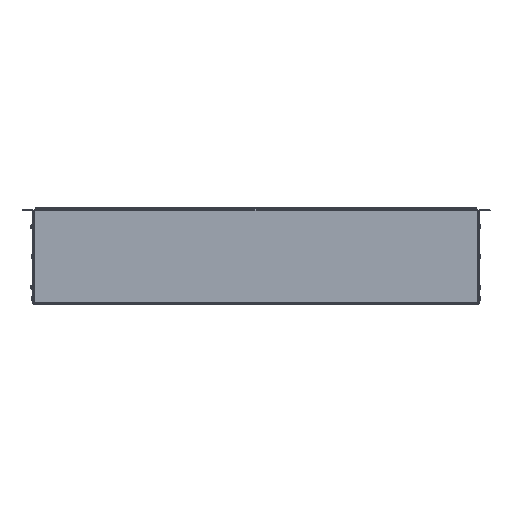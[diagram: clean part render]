
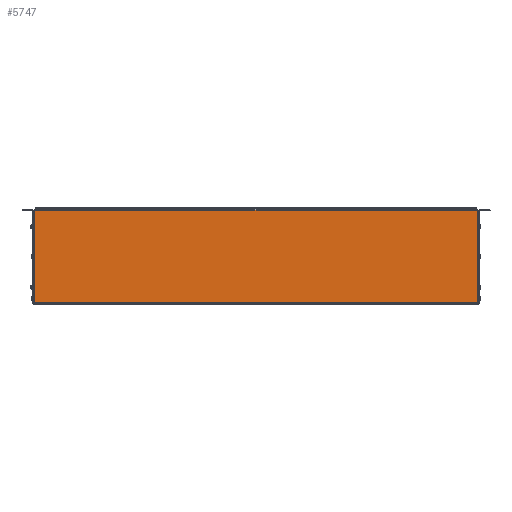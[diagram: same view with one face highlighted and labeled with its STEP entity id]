
A CAD part, front view. The second image highlights one B-rep face of the part: STEP entity #5747.
In plain terms, the highlighted planar face has unit normal (0, -1, 0) as drawn and (0, 0, -1) by its records, which use the part's own axes.
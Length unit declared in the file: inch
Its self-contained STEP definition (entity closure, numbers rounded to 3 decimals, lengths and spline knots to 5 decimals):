
#40 = LINE ( 'NONE', #11777, #3317 ) ;
#77 = EDGE_CURVE ( 'NONE', #4334, #10689, #5113, .T. ) ;
#78 = LINE ( 'NONE', #328, #12668 ) ;
#114 = CARTESIAN_POINT ( 'NONE',  ( 76.22408, -11.18879, 0. ) ) ;
#328 = CARTESIAN_POINT ( 'NONE',  ( 84.10657, 27.71694, 0. ) ) ;
#578 = DIRECTION ( 'NONE',  ( 0., 1., 0. ) ) ;
#716 = VECTOR ( 'NONE', #7683, 39.37008 ) ;
#754 = EDGE_CURVE ( 'NONE', #10423, #1016, #11238, .T. ) ;
#824 = VERTEX_POINT ( 'NONE', #15130 ) ;
#826 = CARTESIAN_POINT ( 'NONE',  ( 76.23613, -11.26644, 0. ) ) ;
#921 = ORIENTED_EDGE ( 'NONE', *, *, #5177, .F. ) ;
#1016 = VERTEX_POINT ( 'NONE', #15089 ) ;
#1165 = EDGE_CURVE ( 'NONE', #3764, #11389, #14855, .T. ) ;
#1623 = VECTOR ( 'NONE', #2586, 39.37008 ) ;
#1625 = ORIENTED_EDGE ( 'NONE', *, *, #15504, .F. ) ;
#1706 = ORIENTED_EDGE ( 'NONE', *, *, #14221, .F. ) ;
#2112 = EDGE_CURVE ( 'NONE', #3764, #10423, #8512, .T. ) ;
#2116 = VERTEX_POINT ( 'NONE', #12935 ) ;
#2522 = CARTESIAN_POINT ( 'NONE',  ( 84.88782, 26.58967, 0. ) ) ;
#2570 = PLANE ( 'NONE',  #4604 ) ;
#2586 = DIRECTION ( 'NONE',  ( -1., 0., 0. ) ) ;
#2635 = CARTESIAN_POINT ( 'NONE',  ( 76.23613, 26.6464, 0. ) ) ;
#2663 = ORIENTED_EDGE ( 'NONE', *, *, #12336, .F. ) ;
#2855 = DIRECTION ( 'NONE',  ( -1., 0., 0. ) ) ;
#3317 = VECTOR ( 'NONE', #4483, 39.37008 ) ;
#3613 = ORIENTED_EDGE ( 'NONE', *, *, #12252, .F. ) ;
#3762 = DIRECTION ( 'NONE',  ( 1., 0., 0. ) ) ;
#3764 = VERTEX_POINT ( 'NONE', #5384 ) ;
#3835 = ORIENTED_EDGE ( 'NONE', *, *, #13695, .F. ) ;
#4103 = CARTESIAN_POINT ( 'NONE',  ( 76.23613, -12.33698, 0. ) ) ;
#4334 = VERTEX_POINT ( 'NONE', #114 ) ;
#4474 = DIRECTION ( 'NONE',  ( 1., 0., 0. ) ) ;
#4475 = EDGE_CURVE ( 'NONE', #824, #5268, #78, .T. ) ;
#4483 = DIRECTION ( 'NONE',  ( -1., 0., 0. ) ) ;
#4604 = AXIS2_PLACEMENT_3D ( 'NONE', #2522, #11065, #3762 ) ;
#4643 = CARTESIAN_POINT ( 'NONE',  ( 84.10657, 26.6464, 0. ) ) ;
#4735 = LINE ( 'NONE', #15021, #716 ) ;
#4864 = LINE ( 'NONE', #7384, #1623 ) ;
#5113 = LINE ( 'NONE', #6115, #14463 ) ;
#5177 = EDGE_CURVE ( 'NONE', #2116, #824, #40, .T. ) ;
#5184 = ORIENTED_EDGE ( 'NONE', *, *, #9157, .T. ) ;
#5268 = VERTEX_POINT ( 'NONE', #4643 ) ;
#5282 = ORIENTED_EDGE ( 'NONE', *, *, #1165, .T. ) ;
#5284 = VECTOR ( 'NONE', #14172, 39.37008 ) ;
#5384 = CARTESIAN_POINT ( 'NONE',  ( 84.10657, -11.26644, 0. ) ) ;
#5476 = VECTOR ( 'NONE', #9939, 39.37008 ) ;
#5619 = CARTESIAN_POINT ( 'NONE',  ( 84.10657, -11.20972, 0. ) ) ;
#5620 = CARTESIAN_POINT ( 'NONE',  ( 84.10657, -12.33698, 0. ) ) ;
#5747 = ADVANCED_FACE ( 'NONE', ( #14551 ), #2570, .F. ) ;
#5798 = LINE ( 'NONE', #7858, #14744 ) ;
#5953 = ORIENTED_EDGE ( 'NONE', *, *, #754, .F. ) ;
#6115 = CARTESIAN_POINT ( 'NONE',  ( 76.23613, -11.18879, 0. ) ) ;
#6116 = CARTESIAN_POINT ( 'NONE',  ( 76.22408, 26.58967, 0. ) ) ;
#6593 = CARTESIAN_POINT ( 'NONE',  ( 76.22408, 26.56823, 0. ) ) ;
#6964 = LINE ( 'NONE', #4103, #12705 ) ;
#7384 = CARTESIAN_POINT ( 'NONE',  ( 76.14348, 26.56823, 0. ) ) ;
#7683 = DIRECTION ( 'NONE',  ( 0., -1., 0. ) ) ;
#7818 = CARTESIAN_POINT ( 'NONE',  ( 76.23613, 26.56823, 0. ) ) ;
#7858 = CARTESIAN_POINT ( 'NONE',  ( 84.11972, 26.58967, 0. ) ) ;
#8041 = VERTEX_POINT ( 'NONE', #6593 ) ;
#8192 = ORIENTED_EDGE ( 'NONE', *, *, #2112, .F. ) ;
#8512 = LINE ( 'NONE', #5620, #5284 ) ;
#8699 = LINE ( 'NONE', #8707, #5476 ) ;
#8707 = CARTESIAN_POINT ( 'NONE',  ( 84.88782, 26.6464, 0. ) ) ;
#8833 = DIRECTION ( 'NONE',  ( 0., 1., 0. ) ) ;
#8884 = CARTESIAN_POINT ( 'NONE',  ( 84.88782, -11.26644, 0. ) ) ;
#9157 = EDGE_CURVE ( 'NONE', #4334, #8041, #9863, .T. ) ;
#9283 = ORIENTED_EDGE ( 'NONE', *, *, #77, .F. ) ;
#9863 = LINE ( 'NONE', #6116, #14831 ) ;
#9939 = DIRECTION ( 'NONE',  ( -1., 0., 0. ) ) ;
#10084 = VECTOR ( 'NONE', #4474, 39.37008 ) ;
#10423 = VERTEX_POINT ( 'NONE', #5619 ) ;
#10689 = VERTEX_POINT ( 'NONE', #12197 ) ;
#11065 = DIRECTION ( 'NONE',  ( 0., 0., 1. ) ) ;
#11238 = LINE ( 'NONE', #12982, #10084 ) ;
#11389 = VERTEX_POINT ( 'NONE', #826 ) ;
#11619 = ORIENTED_EDGE ( 'NONE', *, *, #4475, .F. ) ;
#11631 = VECTOR ( 'NONE', #2855, 39.37008 ) ;
#11777 = CARTESIAN_POINT ( 'NONE',  ( 84.88782, 26.58967, 0. ) ) ;
#11886 = VERTEX_POINT ( 'NONE', #7818 ) ;
#12197 = CARTESIAN_POINT ( 'NONE',  ( 76.23613, -11.18879, 0. ) ) ;
#12252 = EDGE_CURVE ( 'NONE', #5268, #13755, #8699, .T. ) ;
#12320 = DIRECTION ( 'NONE',  ( 1., 0., 0. ) ) ;
#12336 = EDGE_CURVE ( 'NONE', #13755, #11886, #4735, .T. ) ;
#12668 = VECTOR ( 'NONE', #8833, 39.37008 ) ;
#12705 = VECTOR ( 'NONE', #13789, 39.37008 ) ;
#12935 = CARTESIAN_POINT ( 'NONE',  ( 84.11972, 26.58967, 0. ) ) ;
#12982 = CARTESIAN_POINT ( 'NONE',  ( 84.10657, -11.20972, 0. ) ) ;
#13502 = EDGE_LOOP ( 'NONE', ( #9283, #5184, #3835, #2663, #3613, #11619, #921, #1706, #5953, #8192, #5282, #1625 ) ) ;
#13695 = EDGE_CURVE ( 'NONE', #11886, #8041, #4864, .T. ) ;
#13755 = VERTEX_POINT ( 'NONE', #2635 ) ;
#13789 = DIRECTION ( 'NONE',  ( 0., -1., 0. ) ) ;
#14172 = DIRECTION ( 'NONE',  ( 0., 1., 0. ) ) ;
#14221 = EDGE_CURVE ( 'NONE', #1016, #2116, #5798, .T. ) ;
#14412 = DIRECTION ( 'NONE',  ( 0., 1., 0. ) ) ;
#14463 = VECTOR ( 'NONE', #12320, 39.37008 ) ;
#14551 = FACE_OUTER_BOUND ( 'NONE', #13502, .T. ) ;
#14744 = VECTOR ( 'NONE', #578, 39.37008 ) ;
#14831 = VECTOR ( 'NONE', #14412, 39.37008 ) ;
#14855 = LINE ( 'NONE', #8884, #11631 ) ;
#15021 = CARTESIAN_POINT ( 'NONE',  ( 76.23613, 26.56823, 0. ) ) ;
#15089 = CARTESIAN_POINT ( 'NONE',  ( 84.11972, -11.20972, 0. ) ) ;
#15130 = CARTESIAN_POINT ( 'NONE',  ( 84.10657, 26.58967, 0. ) ) ;
#15504 = EDGE_CURVE ( 'NONE', #10689, #11389, #6964, .T. ) ;
